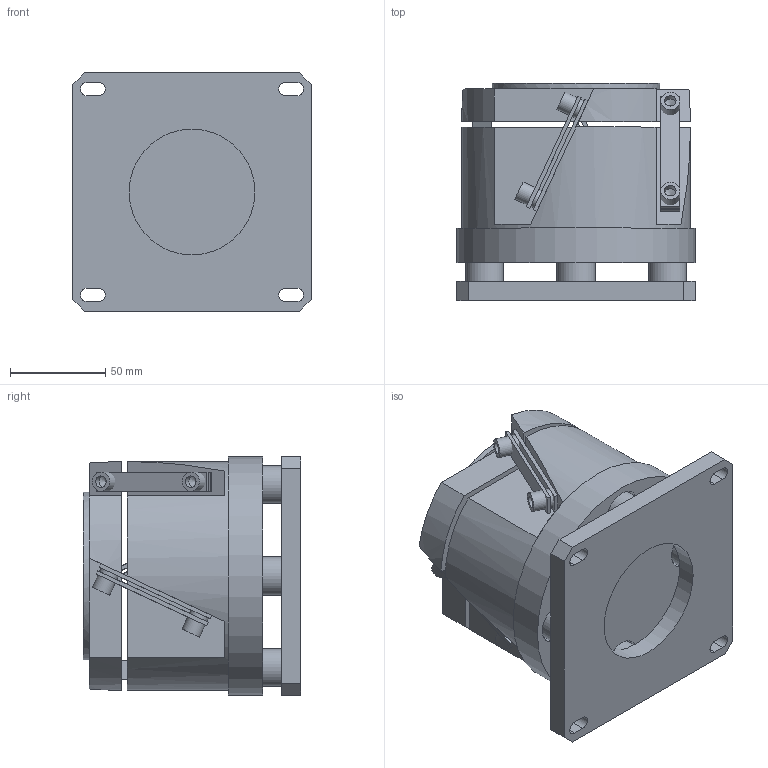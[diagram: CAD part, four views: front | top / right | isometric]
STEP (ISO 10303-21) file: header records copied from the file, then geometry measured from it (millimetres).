
FILE_DESCRIPTION(/* description */ (''),/* implementation_level */ '2;1');
FILE_NAME(/* name */ 'JM120.stp',/* time_stamp */ '2022-04-19T10:17:50+08:00',/* author */ (''),/* organization */ (''),/* preprocessor_version */ 'ST-DEVELOPER v18.102',/* originating_system */ 'SIEMENS PLM Software NX 2019',/* authorisation */ '');
FILE_SCHEMA (('AUTOMOTIVE_DESIGN { 1 0 10303 214 3 1 1 1 }'));
Length unit declared in the file: millimetre
Products named in the file (1): JM120_stp_objects
Bounding box: 125 x 114 x 125 mm (x, y, z)
Volume: 1111660.9 mm3; surface area: 163460.6 mm2
Topology: 24 solids, 24 shells, 193 faces, 407 edges, 266 vertices
Faces by surface type: plane 128, cylinder 57, cone 8
Full cylindrical faces by diameter (mm): 4.458 x8, 4.532 x8, 5 x1, 6 x8, 10 x8, 20 x4, 22 x4, 66 x1, 88 x1, 120 x1, 125 x1
Entity records: 5085 total; most frequent: DIRECTION 868, CARTESIAN_POINT 802, ORIENTED_EDGE 688, EDGE_CURVE 344, AXIS2_PLACEMENT_3D 330, EDGE_LOOP 294, VERTEX_POINT 264, LINE 208
